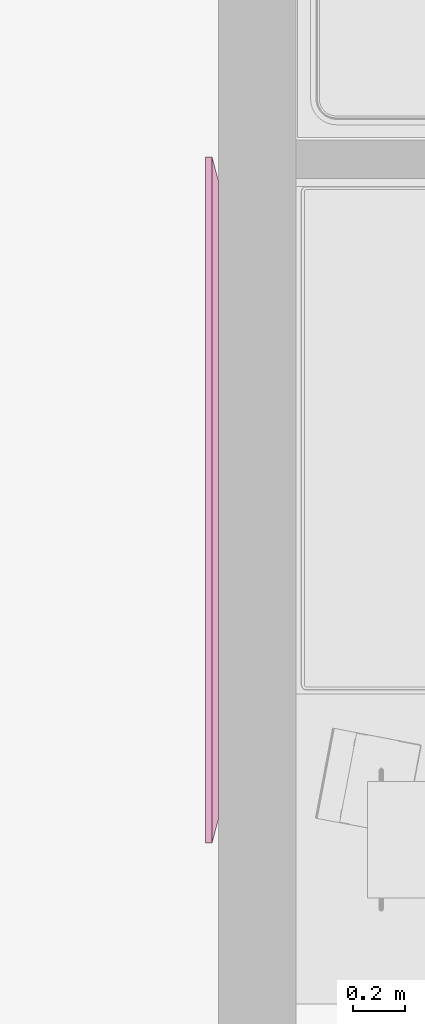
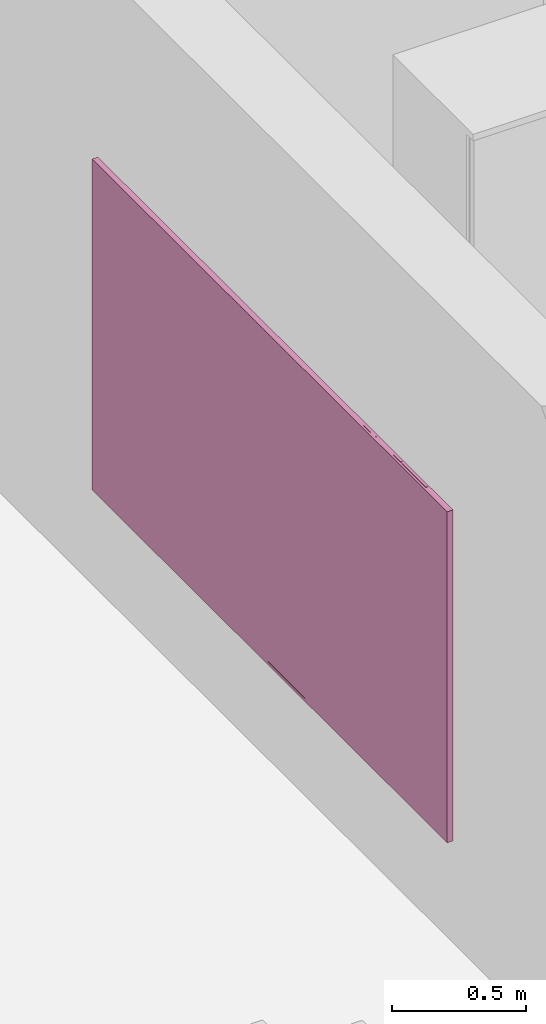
# One storey, part 165 of 165: 1 furnishing.
"""IFC2X3 building model written with IfcOpenShell, lengths in millimetres."""

from ifc_helpers import new_model, entity, si_unit, converted_unit, money_unit, direction, frame, origin_with_axes, place, context, subcontext, project, spatial, faceted_brep, material, material_list, type_object, element, save


model = new_model("IFC2X3")

# Units and contexts
model_context = context("Model", 3, precision=1e-05, world=origin_with_axes(), true_north=direction((0.0, 1.0)))
body_context = subcontext(model_context, "Body", "Model", "MODEL_VIEW")
ifc_project = project(units=[si_unit("LENGTHUNIT", "METRE", prefix="MILLI"), si_unit("AREAUNIT", "SQUARE_METRE"), si_unit("VOLUMEUNIT", "CUBIC_METRE"), converted_unit("PLANEANGLEUNIT", "DEGREE", entity("IfcPlaneAngleMeasure", 0.0174532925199), si_unit("PLANEANGLEUNIT", "RADIAN"), dimensions=[0, 0, 0, 0, 0, 0, 0]), si_unit("SOLIDANGLEUNIT", "STERADIAN"), money_unit("USD"), converted_unit("TIMEUNIT", "Year", entity("IfcTimeMeasure", 31556926.0), si_unit("TIMEUNIT", "SECOND"), dimensions=[0, 0, 0, 0, 0, 0, 0]), si_unit("MASSUNIT", "GRAM"), si_unit("THERMODYNAMICTEMPERATUREUNIT", "DEGREE_CELSIUS"), si_unit("LUMINOUSINTENSITYUNIT", "LUMEN")], contexts=[model_context])

# Site, building, storey
site_placement = place(None, origin_with_axes())
site = spatial("IfcSite", under=ifc_project, at=site_placement, Name="Site", CompositionType="ELEMENT")
building_placement = place(site_placement, origin_with_axes())
building = spatial("IfcBuilding", under=site, at=building_placement, Name="Building", CompositionType="ELEMENT")
storey_placement = place(building_placement, frame((0.0, 0.0, 6300.0), z_axis=(0.0, 0.0, 1.0), x_axis=(1.0, 0.0, 0.0)))
storey = spatial("IfcBuildingStorey", under=building, at=storey_placement, Name="4KORRUS", CompositionType="ELEMENT", Elevation=6300.0)

# Furnishing
ifc_material = material(Name="Background")
ifc_material_list = material_list([ifc_material])
furnishing_element_type = type_object("IfcFurnishingElementType", Name="Flat Panel TV 19")
furnishing_placement = place(storey_placement, frame((-6340.29670331, -18010.5726809, 500.0), z_axis=(0.0, 0.0, 1.0), x_axis=(0.0, -1.0, 0.0)))
element("IfcFurnishingElement", 1, at=furnishing_placement, inside=storey, type_object=furnishing_element_type, material=ifc_material_list, Name="FU - 005", context=body_context, shape_type="Brep", body=[
    faceted_brep([(-2634.727, 0.0, 20.0), (-2634.727, 0.0, 1490.784), (-2634.727, 1.0, 1490.784), (-2634.727, 1.0, 20.0), (-20.0, 0.0, 20.0), (-20.0, 0.0, 1490.784), (-20.0, 1.0, 1490.784), (-20.0, 1.0, 20.0)], [[[0, 1, 2, 3]], [[0, 4, 5, 1]], [[1, 5, 6, 2]], [[3, 2, 6, 7]], [[4, 0, 3, 7]], [[5, 4, 7, 6]]]),
    faceted_brep([(0.0, 0.0, 1510.784), (-2654.727, 0.0, 1510.784), (-2654.727, 0.0, 0.0), (0.0, 0.0, 0.0), (-20.0, 0.0, 20.0), (-2634.727, 0.0, 20.0), (-2634.727, 0.0, 1490.784), (-20.0, 0.0, 1490.784), (0.0, 25.0, 1510.784), (-2654.727, 25.0, 1510.784), (-2654.727, 25.0, 0.0), (0.0, 25.0, 0.0), (-20.0, 1.0, 20.0), (-2634.727, 1.0, 20.0), (-2634.727, 1.0, 1490.784), (-20.0, 1.0, 1490.784), (-93.301, 50.0, 1417.482), (-2561.425, 50.0, 1417.482), (-2561.425, 50.0, 93.301), (-93.301, 50.0, 93.301)], [[[0, 1, 2, 3], [4, 5, 6, 7]], [[8, 9, 1, 0]], [[9, 10, 2, 1]], [[10, 11, 3, 2]], [[11, 8, 0, 3]], [[4, 12, 13, 5]], [[5, 13, 14, 6]], [[6, 14, 15, 7]], [[7, 15, 12, 4]], [[16, 17, 9, 8]], [[17, 18, 10, 9]], [[18, 19, 11, 10]], [[19, 16, 8, 11]], [[13, 12, 15, 14]], [[18, 17, 16, 19]]]),
    faceted_brep([(-1327.363, -0.8, 5.0), (-1353.911, -0.8, 10.0), (-1353.911, 0.0, 10.0), (-1327.363, 0.0, 5.0), (-1300.816, -0.8, 10.0), (-1061.891, -0.8, 15.0), (-1592.836, -0.8, 15.0), (-1592.836, 0.0, 15.0), (-1061.891, 0.0, 15.0), (-1300.816, 0.0, 10.0)], [[[0, 1, 2, 3]], [[0, 4, 5, 6, 1]], [[1, 6, 7, 2]], [[3, 2, 7, 8, 9]], [[4, 0, 3, 9]], [[5, 4, 9, 8]], [[6, 5, 8, 7]]]),
    faceted_brep([(-353.964, 10.0, 1510.784), (-176.982, 10.0, 1510.784), (-176.982, 10.0, 1512.384), (-353.964, 10.0, 1512.384), (-353.964, 16.25, 1510.784), (-176.982, 16.25, 1510.784), (-176.982, 16.25, 1512.384), (-353.964, 16.25, 1512.384)], [[[0, 1, 2, 3]], [[1, 0, 4, 5]], [[2, 1, 5, 6]], [[3, 2, 6, 7]], [[0, 3, 7, 4]], [[5, 4, 7, 6]]]),
    faceted_brep([(-543.587, 10.0, 1510.784), (-366.605, 10.0, 1510.784), (-366.605, 10.0, 1512.384), (-543.587, 10.0, 1512.384), (-543.587, 16.25, 1510.784), (-366.605, 16.25, 1510.784), (-366.605, 16.25, 1512.384), (-543.587, 16.25, 1512.384)], [[[0, 1, 2, 3]], [[1, 0, 4, 5]], [[2, 1, 5, 6]], [[3, 2, 6, 7]], [[0, 3, 7, 4]], [[5, 4, 7, 6]]]),
    faceted_brep([(-644.719, 10.0, 1510.784), (-556.228, 10.0, 1510.784), (-556.228, 10.0, 1512.384), (-644.719, 10.0, 1512.384), (-644.719, 16.25, 1510.784), (-556.228, 16.25, 1510.784), (-556.228, 16.25, 1512.384), (-644.719, 16.25, 1512.384)], [[[0, 1, 2, 3]], [[1, 0, 4, 5]], [[2, 1, 5, 6]], [[3, 2, 6, 7]], [[0, 3, 7, 4]], [[5, 4, 7, 6]]]),
])

save(model, "model.ifc")
